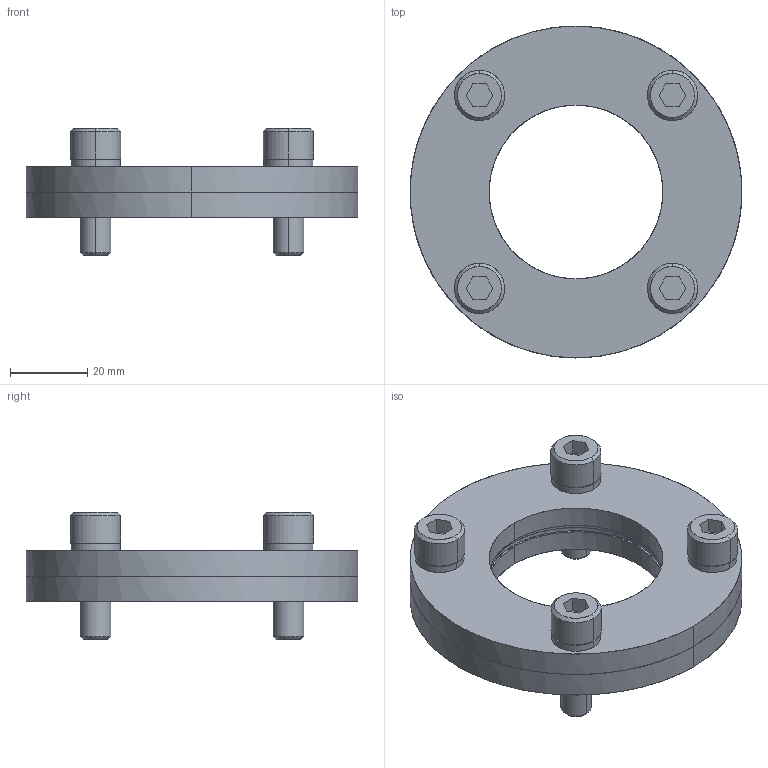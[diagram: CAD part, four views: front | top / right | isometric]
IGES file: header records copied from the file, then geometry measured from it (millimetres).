
Global section: file name: E:\UnigraphicsGraphicData\MISUMI_PRESS-PARTS\IGES\3d_kf45_04241_r00.igs; native system: NX V5.0; preprocessor: UGS NX IGES V5.0; author: MISUMI; date: 20110105.161127; units: millimetre
Bounding box: 86 x 86 x 33 mm (x, y, z)
Surface area: 28895.3 mm2 (no closed solid volume)
Topology: 0 solids, 0 shells, 130 faces, 1024 edges, 1024 vertices
Faces by surface type: bspline 130
